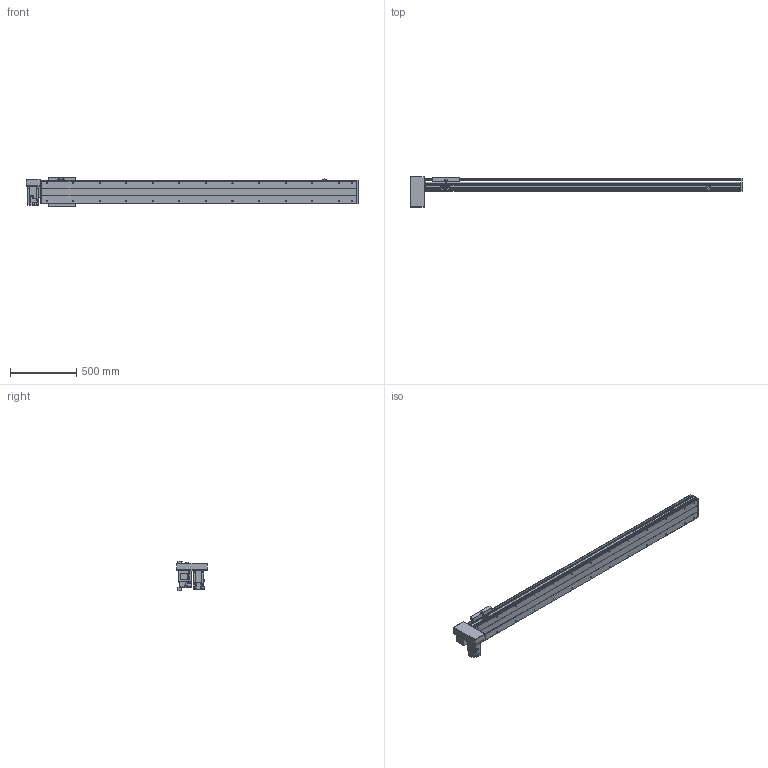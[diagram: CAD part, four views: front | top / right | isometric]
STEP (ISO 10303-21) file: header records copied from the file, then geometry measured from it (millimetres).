
FILE_DESCRIPTION(/* description */ ('STEP AP214'),/* implementation_level */ '2;1');
FILE_NAME(/* name */ 'PBS200-P40-S2000-RD-T75-C1-N(0)',/* time_stamp */ '2022-06-11T09:31:01+02:00',/* author */ ('License CC BY-ND 4.0'),/* organization */ ('CADENAS'),/* preprocessor_version */ 'ST-DEVELOPER v18.102',/* originating_system */ 'PARTsolutions',/* authorisation */ ' ');
FILE_SCHEMA (('AUTOMOTIVE_DESIGN {1 0 10303 214 3 1 1}'));
Length unit declared in the file: millimetre
Products named in the file (7): PBS200-P40-S2000-RD-T75-C1-N(0); PBS200_sensor; PBS200_plant; PBS200_sliser; T75-p1; PBS200T-RD_motors; PBS200-S2000()_body
Assembly tree (8 placements, depth 2):
  PBS200-P40-S2000-RD-T75-C1-N(0)
    PBS200_sensor  x3
    PBS200_plant
    PBS200_sliser
    T75-p1
    PBS200T-RD_motors
    PBS200-S2000()_body
Bounding box: 2500 x 230 x 221 mm (x, y, z)
Volume: 17481570.7 mm3; surface area: 2804162.7 mm2
Topology: 8 solids, 8 shells, 950 faces, 2424 edges, 1578 vertices
Faces by surface type: plane 584, cylinder 308, cone 58
Full cylindrical faces by diameter (mm): 2.459 x6, 3.242 x4, 4.5 x6, 4.917 x4, 5 x6, 6 x7, 6.6 x8, 6.647 x30, 8 x6, 10 x4, 12 x8, 38 x2, 40 x1, 70 x1
Entity records: 25181 total; most frequent: DIRECTION 4447, CARTESIAN_POINT 4282, ORIENTED_EDGE 4042, EDGE_CURVE 2021, AXIS2_PLACEMENT_3D 1567, VERTEX_POINT 1402, LINE 1313, VECTOR 1313
